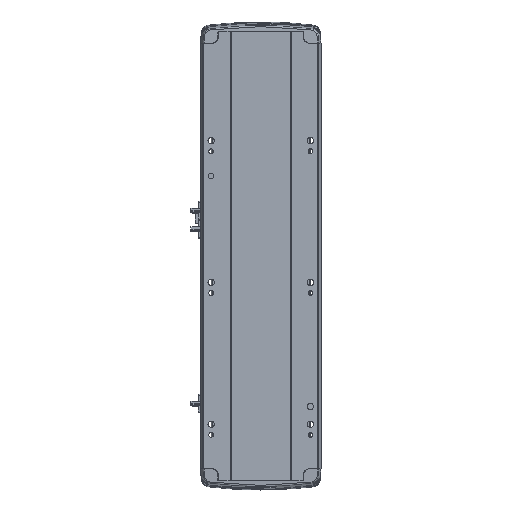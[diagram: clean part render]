
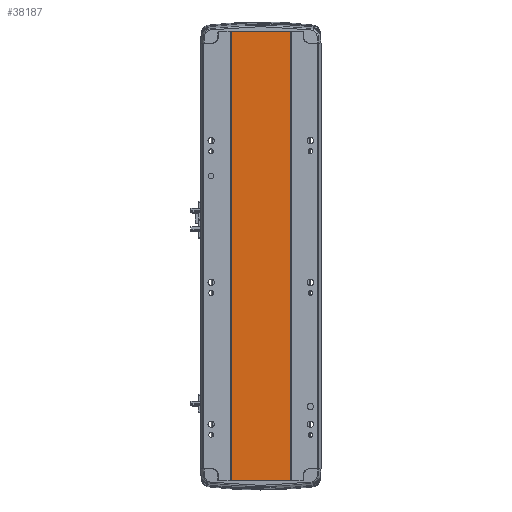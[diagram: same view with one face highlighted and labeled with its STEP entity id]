
A CAD part, front view. The second image highlights one B-rep face of the part: STEP entity #38187.
In plain terms, the highlighted planar face has unit normal (0, -1, 0).
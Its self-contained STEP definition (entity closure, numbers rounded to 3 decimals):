
#192 = PLANE ( 'NONE',  #11373 ) ;
#566 = VECTOR ( 'NONE', #13372, 1000. ) ;
#1590 = DIRECTION ( 'NONE',  ( 0., 0., -1. ) ) ;
#2332 = EDGE_CURVE ( 'NONE', #18908, #11742, #34678, .T. ) ;
#2720 = ORIENTED_EDGE ( 'NONE', *, *, #13899, .T. ) ;
#2729 = ORIENTED_EDGE ( 'NONE', *, *, #17462, .F. ) ;
#4155 = VECTOR ( 'NONE', #1590, 1000. ) ;
#4405 = VERTEX_POINT ( 'NONE', #12240 ) ;
#6143 = DIRECTION ( 'NONE',  ( 1., 0., 0. ) ) ;
#7438 = CARTESIAN_POINT ( 'NONE',  ( 41.793, 0.998, 634.5 ) ) ;
#11373 = AXIS2_PLACEMENT_3D ( 'NONE', #35990, #27048, #24010 ) ;
#11742 = VERTEX_POINT ( 'NONE', #33608 ) ;
#12240 = CARTESIAN_POINT ( 'NONE',  ( -41.791, 1., 0. ) ) ;
#12614 = FACE_OUTER_BOUND ( 'NONE', #34279, .T. ) ;
#12627 = ORIENTED_EDGE ( 'NONE', *, *, #2332, .F. ) ;
#12884 = ORIENTED_EDGE ( 'NONE', *, *, #21736, .T. ) ;
#13372 = DIRECTION ( 'NONE',  ( 0., 0., -1. ) ) ;
#13899 = EDGE_CURVE ( 'NONE', #18908, #4405, #32709, .T. ) ;
#16479 = LINE ( 'NONE', #36191, #38604 ) ;
#17462 = EDGE_CURVE ( 'NONE', #11742, #34199, #23057, .T. ) ;
#17645 = CARTESIAN_POINT ( 'NONE',  ( 0., 0.999, 634.5 ) ) ;
#18908 = VERTEX_POINT ( 'NONE', #20483 ) ;
#20483 = CARTESIAN_POINT ( 'NONE',  ( -41.791, 1., 634.5 ) ) ;
#20655 = DIRECTION ( 'NONE',  ( 1., 0., 0. ) ) ;
#21736 = EDGE_CURVE ( 'NONE', #4405, #34199, #16479, .T. ) ;
#23057 = LINE ( 'NONE', #7438, #4155 ) ;
#24010 = DIRECTION ( 'NONE',  ( -1., 0., 0. ) ) ;
#25614 = CARTESIAN_POINT ( 'NONE',  ( 41.793, 0.998, 0. ) ) ;
#26669 = VECTOR ( 'NONE', #20655, 1000. ) ;
#27048 = DIRECTION ( 'NONE',  ( 0., 1., 0. ) ) ;
#32709 = LINE ( 'NONE', #34463, #566 ) ;
#33608 = CARTESIAN_POINT ( 'NONE',  ( 41.793, 0.998, 634.5 ) ) ;
#34199 = VERTEX_POINT ( 'NONE', #25614 ) ;
#34279 = EDGE_LOOP ( 'NONE', ( #12884, #2729, #12627, #2720 ) ) ;
#34463 = CARTESIAN_POINT ( 'NONE',  ( -41.791, 1., 634.5 ) ) ;
#34678 = LINE ( 'NONE', #17645, #26669 ) ;
#35990 = CARTESIAN_POINT ( 'NONE',  ( 0., 0.999, 634.5 ) ) ;
#36191 = CARTESIAN_POINT ( 'NONE',  ( 0., 0.999, 0. ) ) ;
#38187 = ADVANCED_FACE ( 'NONE', ( #12614 ), #192, .F. ) ;
#38604 = VECTOR ( 'NONE', #6143, 1000. ) ;
